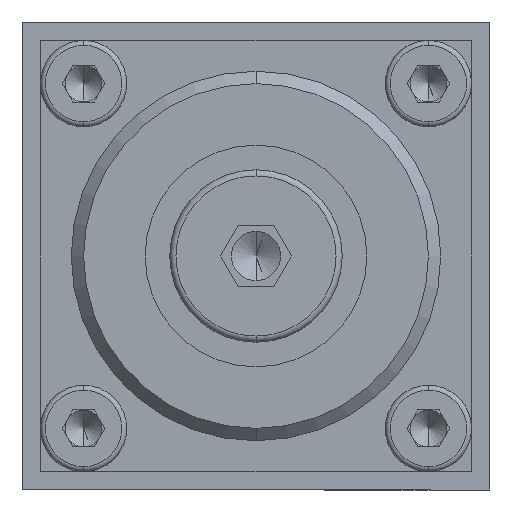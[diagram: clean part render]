
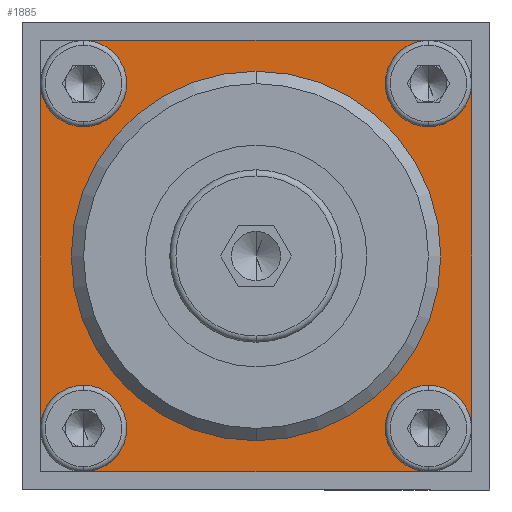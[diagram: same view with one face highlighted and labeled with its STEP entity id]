
A CAD part, left-side view. The second image highlights one B-rep face of the part: STEP entity #1885.
In plain terms, the highlighted planar face has unit normal (-1, 0, 0).
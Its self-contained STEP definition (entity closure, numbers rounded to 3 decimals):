
#14 = AXIS2_PLACEMENT_3D ( 'NONE', #14443, #4101, #16129 ) ;
#173 = AXIS2_PLACEMENT_3D ( 'NONE', #14809, #4450, #16477 ) ;
#219 = CARTESIAN_POINT ( 'NONE',  ( -6., -14., -17.5 ) ) ;
#280 = CARTESIAN_POINT ( 'NONE',  ( -6., -14., 14. ) ) ;
#351 = EDGE_CURVE ( 'NONE', #22012, #21520, #5488, .T. ) ;
#969 = AXIS2_PLACEMENT_3D ( 'NONE', #14244, #3892, #15941 ) ;
#1315 = VERTEX_POINT ( 'NONE', #7802 ) ;
#1356 = CIRCLE ( 'NONE', #19645, 3.5 ) ;
#1500 = AXIS2_PLACEMENT_3D ( 'NONE', #12425, #2037, #14138 ) ;
#1817 = CIRCLE ( 'NONE', #1500, 3.5 ) ;
#1834 = CIRCLE ( 'NONE', #11465, 15. ) ;
#1885 = ADVANCED_FACE ( 'NONE', ( #13196, #17613 ), #2798, .T. ) ;
#1977 = ORIENTED_EDGE ( 'NONE', *, *, #351, .T. ) ;
#1993 = DIRECTION ( 'NONE',  ( 0., 0., 1. ) ) ;
#2037 = DIRECTION ( 'NONE',  ( -1., 0., 0. ) ) ;
#2519 = CARTESIAN_POINT ( 'NONE',  ( -6., -14., 10.5 ) ) ;
#2750 = EDGE_CURVE ( 'NONE', #20669, #8009, #14436, .T. ) ;
#2798 = PLANE ( 'NONE',  #19342 ) ;
#2802 = CARTESIAN_POINT ( 'NONE',  ( -6., 0., 0. ) ) ;
#2806 = CARTESIAN_POINT ( 'NONE',  ( -6., -17.5, 17.5 ) ) ;
#3004 = CARTESIAN_POINT ( 'NONE',  ( -6., -17.5, -14. ) ) ;
#3037 = EDGE_LOOP ( 'NONE', ( #10736, #17587, #19928, #8822, #13391, #6056, #9045, #15989, #5234, #8208, #1977, #18030 ) ) ;
#3262 = VERTEX_POINT ( 'NONE', #19868 ) ;
#3404 = DIRECTION ( 'NONE',  ( 0., 0., 1. ) ) ;
#3449 = EDGE_CURVE ( 'NONE', #15678, #8225, #7630, .T. ) ;
#3793 = VERTEX_POINT ( 'NONE', #21596 ) ;
#3811 = DIRECTION ( 'NONE',  ( -1., 0., 0. ) ) ;
#3851 = CARTESIAN_POINT ( 'NONE',  ( -6., 14., -17.5 ) ) ;
#3892 = DIRECTION ( 'NONE',  ( -1., 0., 0. ) ) ;
#3963 = CARTESIAN_POINT ( 'NONE',  ( -6., 0., 0. ) ) ;
#4101 = DIRECTION ( 'NONE',  ( -1., 0., 0. ) ) ;
#4394 = VERTEX_POINT ( 'NONE', #18399 ) ;
#4450 = DIRECTION ( 'NONE',  ( -1., 0., 0. ) ) ;
#4809 = VERTEX_POINT ( 'NONE', #2519 ) ;
#4962 = CARTESIAN_POINT ( 'NONE',  ( -6., 17.5, -17.5 ) ) ;
#5023 = CIRCLE ( 'NONE', #6434, 3.5 ) ;
#5138 = CARTESIAN_POINT ( 'NONE',  ( -6., -17.5, 14. ) ) ;
#5234 = ORIENTED_EDGE ( 'NONE', *, *, #3449, .F. ) ;
#5488 = LINE ( 'NONE', #7831, #14665 ) ;
#5521 = CIRCLE ( 'NONE', #969, 3.5 ) ;
#6056 = ORIENTED_EDGE ( 'NONE', *, *, #6780, .F. ) ;
#6434 = AXIS2_PLACEMENT_3D ( 'NONE', #9838, #21572, #11583 ) ;
#6696 = DIRECTION ( 'NONE',  ( 0., 0., -1. ) ) ;
#6780 = EDGE_CURVE ( 'NONE', #4394, #3262, #5521, .T. ) ;
#6986 = CIRCLE ( 'NONE', #15521, 3.5 ) ;
#7065 = ORIENTED_EDGE ( 'NONE', *, *, #8252, .F. ) ;
#7630 = CIRCLE ( 'NONE', #18428, 3.5 ) ;
#7748 = DIRECTION ( 'NONE',  ( 0., 0., 1. ) ) ;
#7802 = CARTESIAN_POINT ( 'NONE',  ( -6., 14., 17.5 ) ) ;
#7831 = CARTESIAN_POINT ( 'NONE',  ( -6., -17.5, -17.5 ) ) ;
#8009 = VERTEX_POINT ( 'NONE', #9912 ) ;
#8103 = DIRECTION ( 'NONE',  ( 0., 1., 0. ) ) ;
#8208 = ORIENTED_EDGE ( 'NONE', *, *, #10200, .F. ) ;
#8225 = VERTEX_POINT ( 'NONE', #219 ) ;
#8252 = EDGE_CURVE ( 'NONE', #8009, #20669, #1834, .T. ) ;
#8453 = DIRECTION ( 'NONE',  ( 0., 0., 1. ) ) ;
#8572 = LINE ( 'NONE', #4962, #17109 ) ;
#8822 = ORIENTED_EDGE ( 'NONE', *, *, #11565, .F. ) ;
#8861 = DIRECTION ( 'NONE',  ( -1., 0., 0. ) ) ;
#8926 = CARTESIAN_POINT ( 'NONE',  ( -6., 0., 15. ) ) ;
#9045 = ORIENTED_EDGE ( 'NONE', *, *, #10466, .F. ) ;
#9155 = EDGE_CURVE ( 'NONE', #17980, #8225, #12482, .T. ) ;
#9199 = VECTOR ( 'NONE', #8103, 1000. ) ;
#9464 = CIRCLE ( 'NONE', #173, 3.5 ) ;
#9474 = EDGE_CURVE ( 'NONE', #4809, #21520, #1356, .T. ) ;
#9838 = CARTESIAN_POINT ( 'NONE',  ( -6., 14., -14. ) ) ;
#9855 = DIRECTION ( 'NONE',  ( 0., 0., 1. ) ) ;
#9912 = CARTESIAN_POINT ( 'NONE',  ( -6., 0., -15. ) ) ;
#10200 = EDGE_CURVE ( 'NONE', #22012, #15678, #1817, .T. ) ;
#10466 = EDGE_CURVE ( 'NONE', #17980, #4394, #5023, .T. ) ;
#10525 = VERTEX_POINT ( 'NONE', #16608 ) ;
#10600 = EDGE_CURVE ( 'NONE', #3793, #3262, #8572, .T. ) ;
#10736 = ORIENTED_EDGE ( 'NONE', *, *, #12750, .F. ) ;
#11077 = AXIS2_PLACEMENT_3D ( 'NONE', #2802, #18703, #9855 ) ;
#11288 = EDGE_CURVE ( 'NONE', #16234, #1315, #17681, .T. ) ;
#11465 = AXIS2_PLACEMENT_3D ( 'NONE', #14171, #3811, #15853 ) ;
#11565 = EDGE_CURVE ( 'NONE', #3793, #10525, #6986, .T. ) ;
#11583 = DIRECTION ( 'NONE',  ( 0., 0., 1. ) ) ;
#12238 = CARTESIAN_POINT ( 'NONE',  ( -6., -14., -10.5 ) ) ;
#12377 = DIRECTION ( 'NONE',  ( -1., 0., 0. ) ) ;
#12425 = CARTESIAN_POINT ( 'NONE',  ( -6., -14., -14. ) ) ;
#12482 = LINE ( 'NONE', #12777, #20835 ) ;
#12750 = EDGE_CURVE ( 'NONE', #16234, #4809, #17782, .T. ) ;
#12777 = CARTESIAN_POINT ( 'NONE',  ( -6., -17.5, -17.5 ) ) ;
#13196 = FACE_OUTER_BOUND ( 'NONE', #3037, .T. ) ;
#13391 = ORIENTED_EDGE ( 'NONE', *, *, #10600, .T. ) ;
#13858 = ORIENTED_EDGE ( 'NONE', *, *, #2750, .F. ) ;
#14138 = DIRECTION ( 'NONE',  ( 0., 0., 1. ) ) ;
#14171 = CARTESIAN_POINT ( 'NONE',  ( -6., 0., 0. ) ) ;
#14244 = CARTESIAN_POINT ( 'NONE',  ( -6., 14., -14. ) ) ;
#14436 = CIRCLE ( 'NONE', #11077, 15. ) ;
#14443 = CARTESIAN_POINT ( 'NONE',  ( -6., -14., 14. ) ) ;
#14665 = VECTOR ( 'NONE', #7748, 1000. ) ;
#14809 = CARTESIAN_POINT ( 'NONE',  ( -6., 14., 14. ) ) ;
#15031 = DIRECTION ( 'NONE',  ( -1., 0., 0. ) ) ;
#15400 = DIRECTION ( 'NONE',  ( -1., 0., 0. ) ) ;
#15461 = CARTESIAN_POINT ( 'NONE',  ( -6., -14., 17.5 ) ) ;
#15521 = AXIS2_PLACEMENT_3D ( 'NONE', #18995, #8861, #20645 ) ;
#15678 = VERTEX_POINT ( 'NONE', #12238 ) ;
#15853 = DIRECTION ( 'NONE',  ( 0., 0., 1. ) ) ;
#15941 = DIRECTION ( 'NONE',  ( 0., 0., 1. ) ) ;
#15989 = ORIENTED_EDGE ( 'NONE', *, *, #9155, .T. ) ;
#16070 = DIRECTION ( 'NONE',  ( 0., -1., 0. ) ) ;
#16129 = DIRECTION ( 'NONE',  ( 0., 0., 1. ) ) ;
#16234 = VERTEX_POINT ( 'NONE', #15461 ) ;
#16477 = DIRECTION ( 'NONE',  ( 0., 0., 1. ) ) ;
#16608 = CARTESIAN_POINT ( 'NONE',  ( -6., 14., 10.5 ) ) ;
#17109 = VECTOR ( 'NONE', #6696, 1000. ) ;
#17587 = ORIENTED_EDGE ( 'NONE', *, *, #11288, .T. ) ;
#17613 = FACE_BOUND ( 'NONE', #19469, .T. ) ;
#17681 = LINE ( 'NONE', #2806, #9199 ) ;
#17782 = CIRCLE ( 'NONE', #14, 3.5 ) ;
#17980 = VERTEX_POINT ( 'NONE', #3851 ) ;
#18030 = ORIENTED_EDGE ( 'NONE', *, *, #9474, .F. ) ;
#18399 = CARTESIAN_POINT ( 'NONE',  ( -6., 14., -10.5 ) ) ;
#18428 = AXIS2_PLACEMENT_3D ( 'NONE', #20868, #15031, #3404 ) ;
#18703 = DIRECTION ( 'NONE',  ( -1., 0., 0. ) ) ;
#18995 = CARTESIAN_POINT ( 'NONE',  ( -6., 14., 14. ) ) ;
#19342 = AXIS2_PLACEMENT_3D ( 'NONE', #3963, #15400, #8453 ) ;
#19469 = EDGE_LOOP ( 'NONE', ( #13858, #7065 ) ) ;
#19645 = AXIS2_PLACEMENT_3D ( 'NONE', #280, #12377, #1993 ) ;
#19868 = CARTESIAN_POINT ( 'NONE',  ( -6., 17.5, -14. ) ) ;
#19928 = ORIENTED_EDGE ( 'NONE', *, *, #21230, .F. ) ;
#20645 = DIRECTION ( 'NONE',  ( 0., 0., 1. ) ) ;
#20669 = VERTEX_POINT ( 'NONE', #8926 ) ;
#20835 = VECTOR ( 'NONE', #16070, 1000. ) ;
#20868 = CARTESIAN_POINT ( 'NONE',  ( -6., -14., -14. ) ) ;
#21230 = EDGE_CURVE ( 'NONE', #10525, #1315, #9464, .T. ) ;
#21520 = VERTEX_POINT ( 'NONE', #5138 ) ;
#21572 = DIRECTION ( 'NONE',  ( -1., 0., 0. ) ) ;
#21596 = CARTESIAN_POINT ( 'NONE',  ( -6., 17.5, 14. ) ) ;
#22012 = VERTEX_POINT ( 'NONE', #3004 ) ;
